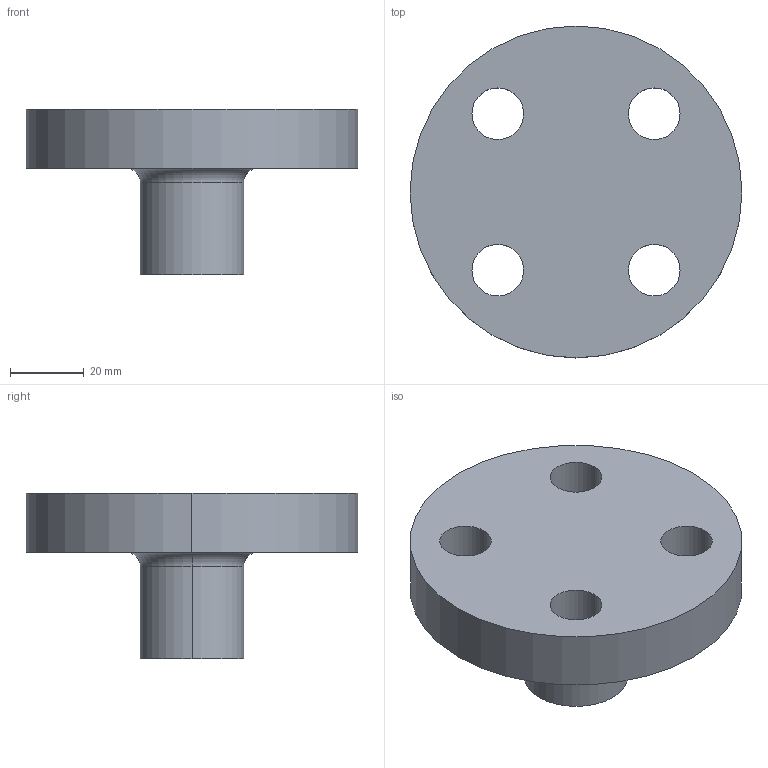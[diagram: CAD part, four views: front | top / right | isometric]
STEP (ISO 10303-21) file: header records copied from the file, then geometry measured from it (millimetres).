
FILE_DESCRIPTION (( 'STEP AP214' ), '1' );
FILE_NAME ('PN40 DN10 Type 21(i) - Type A Face.STEP', '2018-12-29T05:09:33', ( '' ), ( '' ), 'SwSTEP 2.0', 'SolidWorks 2019', '' );
FILE_SCHEMA (( 'AUTOMOTIVE_DESIGN' ));
Length unit declared in the file: millimetre
Products named in the file (1): PN40 DN10 Type 21(i) - Type A Face
Bounding box: 90 x 90 x 45 mm (x, y, z)
Volume: 110113.7 mm3; surface area: 21237.8 mm2
Topology: 1 solids, 1 shells, 17 faces, 40 edges, 26 vertices
Faces by surface type: cylinder 12, plane 3, torus 2
Entity records: 556 total; most frequent: DIRECTION 104, CARTESIAN_POINT 84, ORIENTED_EDGE 80, AXIS2_PLACEMENT_3D 46, EDGE_CURVE 40, CIRCLE 28, EDGE_LOOP 26, VERTEX_POINT 26
